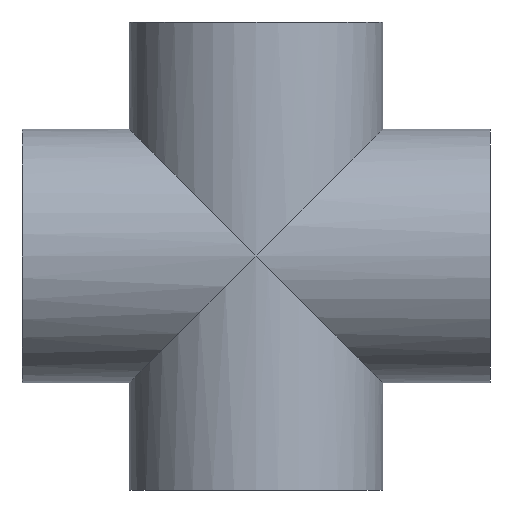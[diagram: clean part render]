
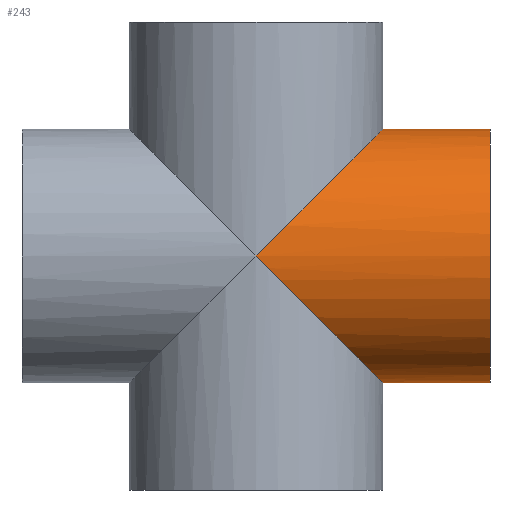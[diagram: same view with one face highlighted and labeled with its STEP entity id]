
A CAD part, left-side view. The second image highlights one B-rep face of the part: STEP entity #243.
In plain terms, the highlighted cylindrical face has radius 25.5 mm (diameter 51 mm), a full revolution.
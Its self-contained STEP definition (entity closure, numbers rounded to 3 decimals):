
#19=ELLIPSE('',#282,36.062,25.5);
#20=ELLIPSE('',#283,36.062,25.5);
#43=FACE_BOUND('',#96,.T.);
#63=FACE_OUTER_BOUND('',#95,.T.);
#95=EDGE_LOOP('',(#199,#200));
#96=EDGE_LOOP('',(#201));
#123=CIRCLE('',#284,25.5);
#141=VERTEX_POINT('',#431);
#142=VERTEX_POINT('',#432);
#143=VERTEX_POINT('',#435);
#163=EDGE_CURVE('',#141,#142,#19,.T.);
#164=EDGE_CURVE('',#142,#141,#20,.T.);
#165=EDGE_CURVE('',#143,#143,#123,.T.);
#199=ORIENTED_EDGE('',*,*,#163,.F.);
#200=ORIENTED_EDGE('',*,*,#164,.F.);
#201=ORIENTED_EDGE('',*,*,#165,.F.);
#227=CYLINDRICAL_SURFACE('',#281,25.5);
#243=ADVANCED_FACE('',(#63,#43),#227,.T.);
#281=AXIS2_PLACEMENT_3D('',#430,#355,#356);
#282=AXIS2_PLACEMENT_3D('',#433,#357,#358);
#283=AXIS2_PLACEMENT_3D('',#434,#359,#360);
#284=AXIS2_PLACEMENT_3D('',#436,#361,#362);
#355=DIRECTION('center_axis',(0.,1.,0.));
#356=DIRECTION('ref_axis',(1.,0.,0.));
#357=DIRECTION('center_axis',(0.,0.707,-0.707));
#358=DIRECTION('ref_axis',(0.,-0.707,-0.707));
#359=DIRECTION('center_axis',(0.,0.707,0.707));
#360=DIRECTION('ref_axis',(0.,0.707,-0.707));
#361=DIRECTION('center_axis',(0.,-1.,0.));
#362=DIRECTION('ref_axis',(1.,0.,0.));
#430=CARTESIAN_POINT('Origin',(0.,0.,0.));
#431=CARTESIAN_POINT('',(25.5,0.,0.));
#432=CARTESIAN_POINT('',(-25.5,0.,0.));
#433=CARTESIAN_POINT('Origin',(0.,0.,0.));
#434=CARTESIAN_POINT('Origin',(0.,0.,0.));
#435=CARTESIAN_POINT('',(-25.5,-47.,0.));
#436=CARTESIAN_POINT('Origin',(0.,-47.,0.));
